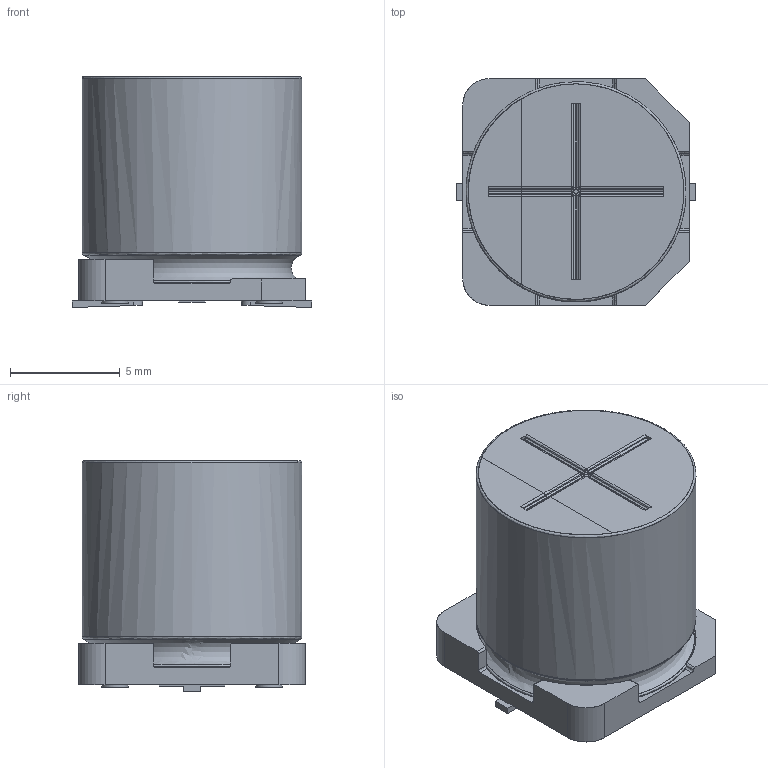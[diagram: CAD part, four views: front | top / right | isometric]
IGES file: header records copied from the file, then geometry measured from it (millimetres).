
Start section: JAMA-IS VERSION  1.0
Bounding box: 10.9 x 10.3 x 10.5 mm (x, y, z)
Surface area: 771.9 mm2 (no closed solid volume)
Topology: 0 solids, 0 shells, 134 faces, 1310 edges, 1290 vertices
Faces by surface type: bspline 134
